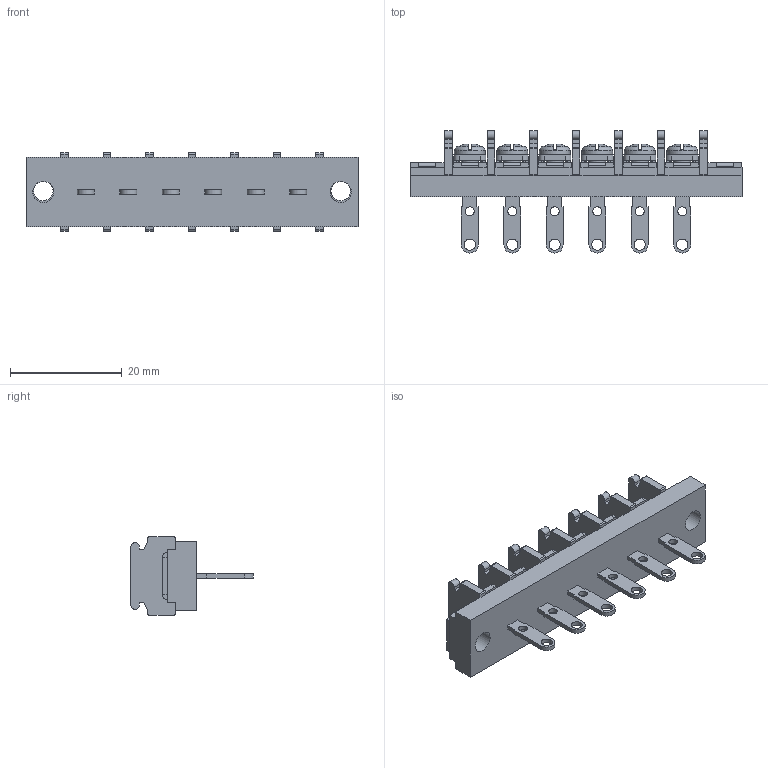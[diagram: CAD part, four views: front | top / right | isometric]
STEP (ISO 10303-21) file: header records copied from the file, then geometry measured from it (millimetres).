
FILE_DESCRIPTION(/* description */ ('Alibre Inc.'),/* implementation_level */ '2;1');
FILE_NAME(/* name */ 'export0',/* time_stamp */ '2015-10-26T16:38:11+09:00',/* author */ (''),/* organization */ (''),/* preprocessor_version */ 'ST-DEVELOPER v14',/* originating_system */ 'Alibre',/* authorisation */ '');
FILE_SCHEMA (('CONFIG_CONTROL_DESIGN'));
Length unit declared in the file: centimetre
Products named in the file (1): ID_1
Bounding box: 59.54 x 21.9 x 14 mm (x, y, z)
Volume: 5305.7 mm3; surface area: 5310.7 mm2
Topology: 1 solids, 17 shells, 1160 faces, 3148 edges, 2068 vertices
Faces by surface type: plane 892, cylinder 116, bspline 104, cone 24, torus 12, sphere 12
Full cylindrical faces by diameter (mm): 1.57 x6, 2 x6, 3 x6, 3.5 x2, 3.8 x2, 5.5 x6
Entity records: 34609 total; most frequent: CARTESIAN_POINT 7439, ORIENTED_EDGE 6184, DIRECTION 4268, EDGE_CURVE 3092, VECTOR 2276, LINE 2276, VERTEX_POINT 2052, AXIS2_PLACEMENT_3D 1407
